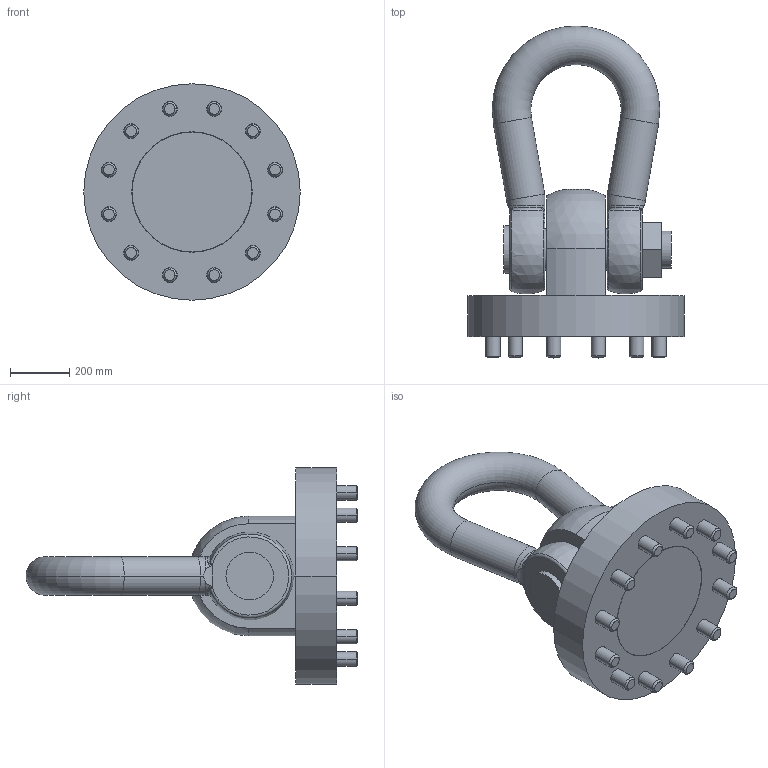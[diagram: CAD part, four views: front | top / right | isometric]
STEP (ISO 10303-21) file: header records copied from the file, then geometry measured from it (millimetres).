
FILE_DESCRIPTION((''),'2;1');
FILE_NAME('001-M35141-P-1_ASM','2016-07-08T',('Andreas.Wendler'),(''),'PRO/ENGINEER BY PARAMETRIC TECHNOLOGY CORPORATION, 2011490','PRO/ENGINEER BY PARAMETRIC TECHNOLOGY CORPORATION, 2011490','');
FILE_SCHEMA(('CONFIG_CONTROL_DESIGN'));
Length unit declared in the file: millimetre
Products named in the file (5): 001-M35141-P-2_AF0; 001-M35141-P-1_AF0; 001-M35389-P-1; 001-M35141-P-10; 001-M35141-P-1_ASM
Assembly tree (15 placements, depth 2):
  001-M35141-P-1_ASM
    001-M35141-P-2_AF0
    001-M35141-P-1_AF0
    001-M35389-P-1  x12
    001-M35141-P-10
Bounding box: 730 x 1119 x 730 mm (x, y, z)
Volume: 118324278 mm3; surface area: 3818657.8 mm2
Topology: 15 solids, 15 shells, 703 faces, 1785 edges, 1164 vertices
Faces by surface type: plane 499, cylinder 120, torus 38, cone 24, bspline 16, sphere 6
Entity records: 17442 total; most frequent: CARTESIAN_POINT 4436, ORIENTED_EDGE 2726, DIRECTION 2541, EDGE_CURVE 1363, VECTOR 1107, LINE 1107, VERTEX_POINT 900, AXIS2_PLACEMENT_3D 717
